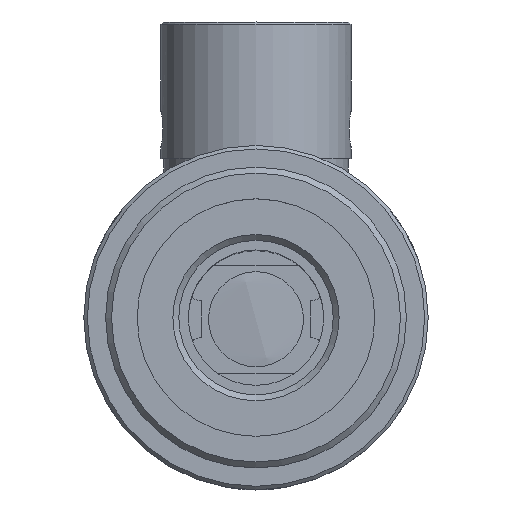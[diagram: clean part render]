
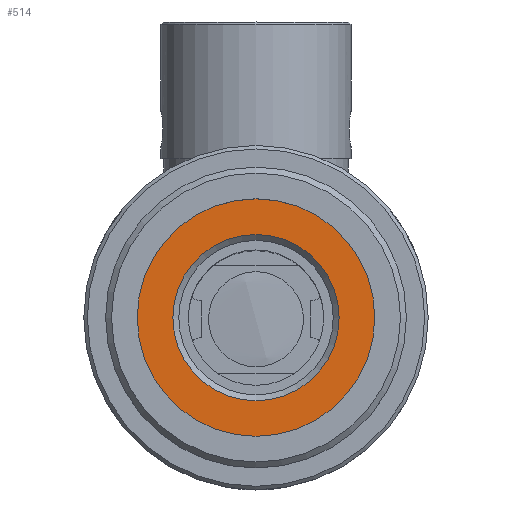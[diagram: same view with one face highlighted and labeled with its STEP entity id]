
A CAD part, top view. The second image highlights one B-rep face of the part: STEP entity #514.
In plain terms, the highlighted planar face has unit normal (0, 0, 1).
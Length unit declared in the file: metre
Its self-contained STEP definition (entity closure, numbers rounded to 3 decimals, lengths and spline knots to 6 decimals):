
#514=ADVANCED_FACE('NONE',(#1317,#1318),#1319,.F.);
#1317=FACE_BOUND('',#2609,.T.);
#1318=FACE_OUTER_BOUND('',#2610,.T.);
#1319=PLANE('',#2611);
#2609=EDGE_LOOP('',(#4079));
#2610=EDGE_LOOP('',(#4080));
#2611=AXIS2_PLACEMENT_3D('',#4081,#4082,#4083);
#4079=ORIENTED_EDGE('',*,*,#6332,.T.);
#4080=ORIENTED_EDGE('',*,*,#6346,.F.);
#4081=CARTESIAN_POINT('',(0.012802,0.010149,0.049459));
#4082=DIRECTION('',(0.,0.0,-1.0));
#4083=DIRECTION('',(-1.0,0.0,0.));
#6332=EDGE_CURVE('NONE',#7401,#7401,#7402,.T.);
#6346=EDGE_CURVE('NONE',#7424,#7424,#7425,.T.);
#7401=VERTEX_POINT('',#9219);
#7402=CIRCLE('',#9220,0.007);
#7424=VERTEX_POINT('',#9242);
#7425=CIRCLE('',#9243,0.01);
#9219=CARTESIAN_POINT('',(0.005802,0.000149,0.049459));
#9220=AXIS2_PLACEMENT_3D('',#11206,#11207,#11208);
#9242=CARTESIAN_POINT('',(0.002802,0.000149,0.049459));
#9243=AXIS2_PLACEMENT_3D('',#11233,#11234,#11235);
#11206=CARTESIAN_POINT('',(0.012802,0.000149,0.049459));
#11207=DIRECTION('',(0.,0.0,-1.0));
#11208=DIRECTION('',(-1.0,0.0,0.));
#11233=CARTESIAN_POINT('',(0.012802,0.000149,0.049459));
#11234=DIRECTION('',(0.,0.0,-1.0));
#11235=DIRECTION('',(-1.0,0.0,0.));
